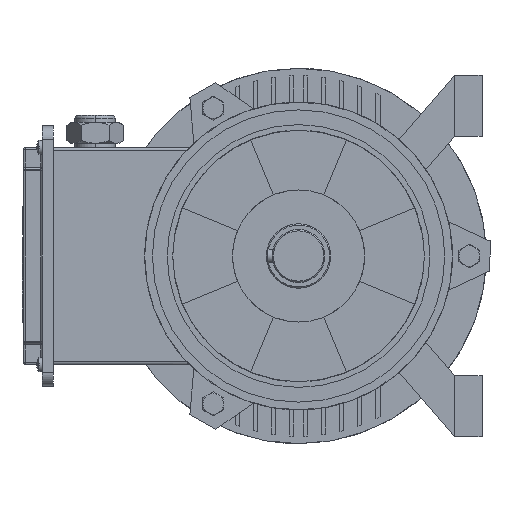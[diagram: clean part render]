
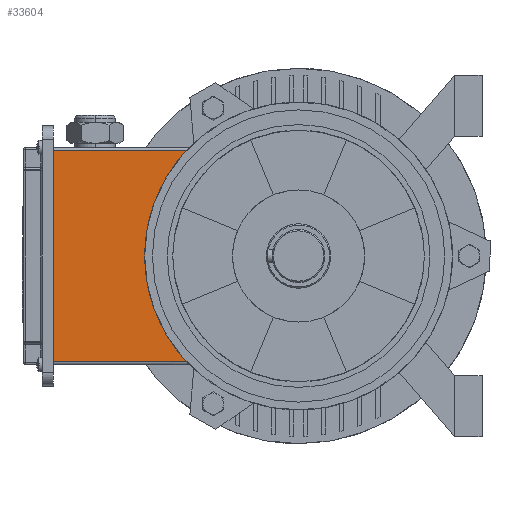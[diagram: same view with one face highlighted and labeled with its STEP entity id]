
A CAD part, left-side view. The second image highlights one B-rep face of the part: STEP entity #33604.
In plain terms, the highlighted planar face has unit normal (-1, 0, 0).
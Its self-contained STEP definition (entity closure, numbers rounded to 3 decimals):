
#334 = DIRECTION ( 'NONE',  ( 0., 1., 0. ) ) ;
#406 = VERTEX_POINT ( 'NONE', #28458 ) ;
#3740 = CARTESIAN_POINT ( 'NONE',  ( -219.445, 90.452, -76.125 ) ) ;
#5267 = VECTOR ( 'NONE', #29664, 1000. ) ;
#5992 = CIRCLE ( 'NONE', #34551, 110.7 ) ;
#8618 = EDGE_CURVE ( 'NONE', #13461, #406, #26886, .T. ) ;
#9927 = CARTESIAN_POINT ( 'NONE',  ( -219.445, 100.514, 76.125 ) ) ;
#10475 = ORIENTED_EDGE ( 'NONE', *, *, #13300, .F. ) ;
#10842 = EDGE_CURVE ( 'NONE', #406, #29057, #14596, .T. ) ;
#13207 = AXIS2_PLACEMENT_3D ( 'NONE', #36330, #22396, #27875 ) ;
#13300 = EDGE_CURVE ( 'NONE', #13461, #28859, #5992, .T. ) ;
#13309 = CARTESIAN_POINT ( 'NONE',  ( -219.445, 186.481, -76.125 ) ) ;
#13461 = VERTEX_POINT ( 'NONE', #18244 ) ;
#13727 = VECTOR ( 'NONE', #20065, 1000. ) ;
#14098 = FACE_OUTER_BOUND ( 'NONE', #17879, .T. ) ;
#14596 = LINE ( 'NONE', #19566, #13727 ) ;
#16351 = ORIENTED_EDGE ( 'NONE', *, *, #10842, .T. ) ;
#17355 = ORIENTED_EDGE ( 'NONE', *, *, #8618, .T. ) ;
#17879 = EDGE_LOOP ( 'NONE', ( #10475, #17355, #16351, #29829 ) ) ;
#18244 = CARTESIAN_POINT ( 'NONE',  ( -219.445, 90.452, 76.125 ) ) ;
#18941 = VECTOR ( 'NONE', #334, 1000. ) ;
#19327 = PLANE ( 'NONE',  #13207 ) ;
#19566 = CARTESIAN_POINT ( 'NONE',  ( -219.445, 186.481, -3.5 ) ) ;
#20065 = DIRECTION ( 'NONE',  ( 0., 0., -1. ) ) ;
#20186 = LINE ( 'NONE', #24260, #5267 ) ;
#22396 = DIRECTION ( 'NONE',  ( -1., 0., 0. ) ) ;
#22625 = EDGE_CURVE ( 'NONE', #28859, #29057, #20186, .T. ) ;
#23297 = DIRECTION ( 'NONE',  ( -1., 0., 0. ) ) ;
#24260 = CARTESIAN_POINT ( 'NONE',  ( -219.445, 100.514, -76.125 ) ) ;
#26419 = DIRECTION ( 'NONE',  ( 0., 0., 1. ) ) ;
#26886 = LINE ( 'NONE', #9927, #18941 ) ;
#27875 = DIRECTION ( 'NONE',  ( 0., 0., 1. ) ) ;
#28458 = CARTESIAN_POINT ( 'NONE',  ( -219.445, 186.481, 76.125 ) ) ;
#28859 = VERTEX_POINT ( 'NONE', #3740 ) ;
#29057 = VERTEX_POINT ( 'NONE', #13309 ) ;
#29664 = DIRECTION ( 'NONE',  ( 0., 1., 0. ) ) ;
#29829 = ORIENTED_EDGE ( 'NONE', *, *, #22625, .F. ) ;
#33604 = ADVANCED_FACE ( 'NONE', ( #14098 ), #19327, .T. ) ;
#34522 = CARTESIAN_POINT ( 'NONE',  ( -219.445, 10.081, 0. ) ) ;
#34551 = AXIS2_PLACEMENT_3D ( 'NONE', #34522, #23297, #26419 ) ;
#36330 = CARTESIAN_POINT ( 'NONE',  ( -219.445, 100.514, -3.5 ) ) ;
